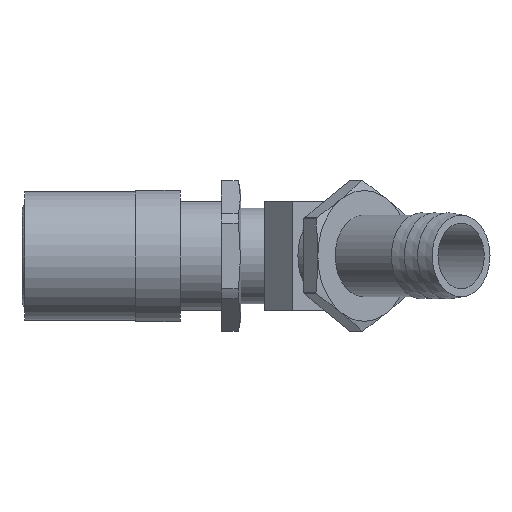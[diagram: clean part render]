
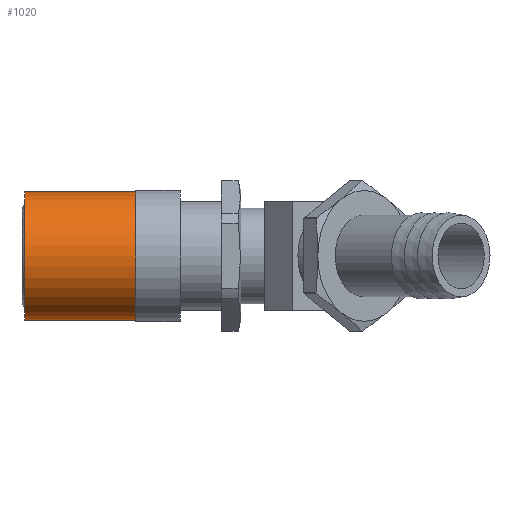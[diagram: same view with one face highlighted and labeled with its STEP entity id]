
A CAD part, front view. The second image highlights one B-rep face of the part: STEP entity #1020.
In plain terms, the highlighted cylindrical face has radius 14.986 mm (diameter 29.972 mm), a full revolution.
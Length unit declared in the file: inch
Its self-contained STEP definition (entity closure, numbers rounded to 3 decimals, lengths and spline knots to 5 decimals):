
#211=CIRCLE('',#1141,0.59);
#212=CIRCLE('',#1143,0.59);
#348=ORIENTED_EDGE('',*,*,#604,.F.);
#349=ORIENTED_EDGE('',*,*,#603,.T.);
#603=EDGE_CURVE('',#719,#719,#211,.T.);
#604=EDGE_CURVE('',#720,#720,#212,.T.);
#719=VERTEX_POINT('',#1801);
#720=VERTEX_POINT('',#1804);
#802=EDGE_LOOP('',(#348));
#803=EDGE_LOOP('',(#349));
#903=FACE_BOUND('',#802,.T.);
#904=FACE_BOUND('',#803,.T.);
#985=CYLINDRICAL_SURFACE('',#1142,0.59);
#1020=ADVANCED_FACE('',(#903,#904),#985,.T.);
#1141=AXIS2_PLACEMENT_3D('',#1800,#1373,#1374);
#1142=AXIS2_PLACEMENT_3D('',#1802,#1375,#1376);
#1143=AXIS2_PLACEMENT_3D('',#1803,#1377,#1378);
#1373=DIRECTION('',(1.,0.,0.));
#1374=DIRECTION('',(0.,0.,-1.));
#1375=DIRECTION('',(1.,0.,0.));
#1376=DIRECTION('',(0.,0.,-1.));
#1377=DIRECTION('',(1.,0.,0.));
#1378=DIRECTION('',(0.,0.,-1.));
#1800=CARTESIAN_POINT('',(0.,0.,0.));
#1801=CARTESIAN_POINT('',(0.,0.,-0.59));
#1802=CARTESIAN_POINT('',(2.206,0.,0.));
#1803=CARTESIAN_POINT('',(1.02,0.,0.));
#1804=CARTESIAN_POINT('',(1.02,0.,-0.59));
